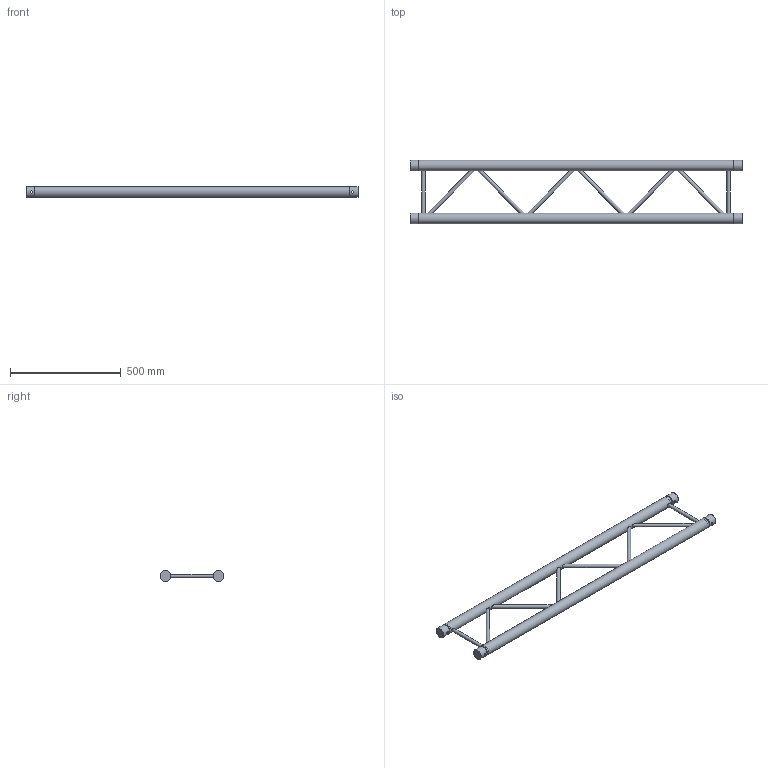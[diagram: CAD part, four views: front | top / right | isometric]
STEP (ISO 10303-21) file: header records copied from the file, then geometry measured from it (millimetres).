
FILE_DESCRIPTION(/* description */ (''),/* implementation_level */ '2;1');
FILE_NAME(/* name */ 'C:\Users\stephan\Desktop\Nieuwe map\H30L\111050042.stp',/* time_stamp */ '2016-09-12T11:51:14+02:00',/* author */ ('Stephan'),/* organization */ (''),/* preprocessor_version */ 'ST-DEVELOPER v15.6',/* originating_system */ 'Autodesk Inventor 2015',/* authorisation */ '');
FILE_SCHEMA (('AUTOMOTIVE_DESIGN { 1 0 10303 214 3 1 1 }'));
Length unit declared in the file: millimetre
Products named in the file (1): 160026965
Bounding box: 1500 x 287.3 x 48.3 mm (x, y, z)
Volume: 1943595.4 mm3; surface area: 962258 mm2
Topology: 10 solids, 12 shells, 88 faces, 160 edges, 100 vertices
Faces by surface type: plane 48, cylinder 36, cone 4
Full cylindrical faces by diameter (mm): 10 x4, 16 x8, 41.8 x4, 42.3 x2, 48.3 x6
Entity records: 2422 total; most frequent: CARTESIAN_POINT 705, DIRECTION 302, ORIENTED_EDGE 264, AXIS2_PLACEMENT_3D 137, EDGE_LOOP 136, EDGE_CURVE 128, VERTEX_POINT 100, STYLED_ITEM 77
